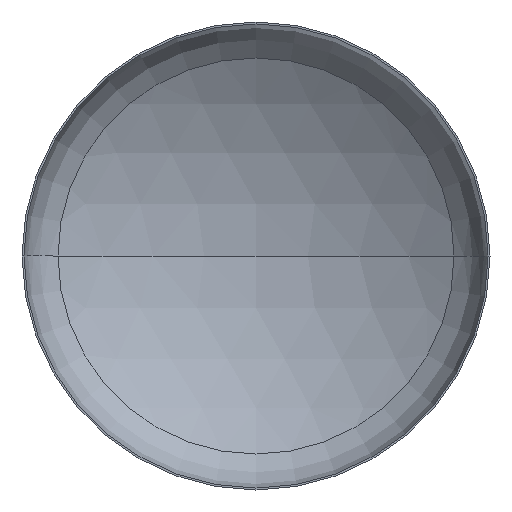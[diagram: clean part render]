
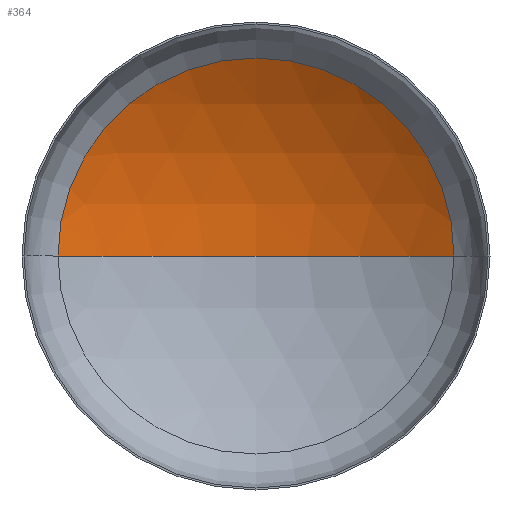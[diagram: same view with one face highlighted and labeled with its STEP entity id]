
A CAD part, front view. The second image highlights one B-rep face of the part: STEP entity #364.
In plain terms, the highlighted spherical face has radius 5600 mm.
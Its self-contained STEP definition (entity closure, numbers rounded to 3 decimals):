
#19 = ORIENTED_EDGE ( 'NONE', *, *, #172, .F. ) ;
#23 = DIRECTION ( 'NONE',  ( -1., 0., 0. ) ) ;
#32 = DIRECTION ( 'NONE',  ( 0., 0., -1. ) ) ;
#36 = VERTEX_POINT ( 'NONE', #277 ) ;
#63 = CARTESIAN_POINT ( 'NONE',  ( 0., 1854.179, 0. ) ) ;
#87 = EDGE_LOOP ( 'NONE', ( #19, #100, #89 ) ) ;
#89 = ORIENTED_EDGE ( 'NONE', *, *, #167, .T. ) ;
#100 = ORIENTED_EDGE ( 'NONE', *, *, #168, .T. ) ;
#107 = CIRCLE ( 'NONE', #123, 2962.301 ) ;
#108 = VERTEX_POINT ( 'NONE', #232 ) ;
#111 = AXIS2_PLACEMENT_3D ( 'NONE', #322, #154, #191 ) ;
#112 = AXIS2_PLACEMENT_3D ( 'NONE', #220, #32, #23 ) ;
#123 = AXIS2_PLACEMENT_3D ( 'NONE', #264, #405, #403 ) ;
#139 = FACE_OUTER_BOUND ( 'NONE', #87, .T. ) ;
#154 = DIRECTION ( 'NONE',  ( 0., 0., 1. ) ) ;
#167 = EDGE_CURVE ( 'NONE', #108, #36, #107, .T. ) ;
#168 = EDGE_CURVE ( 'NONE', #211, #108, #169, .T. ) ;
#169 = CIRCLE ( 'NONE', #112, 5600. ) ;
#172 = EDGE_CURVE ( 'NONE', #211, #36, #379, .T. ) ;
#191 = DIRECTION ( 'NONE',  ( 1., 0., 0. ) ) ;
#211 = VERTEX_POINT ( 'NONE', #63 ) ;
#220 = CARTESIAN_POINT ( 'NONE',  ( 0., -3745.821, 0. ) ) ;
#232 = CARTESIAN_POINT ( 'NONE',  ( 2962.301, 1006.523, 0. ) ) ;
#250 = DIRECTION ( 'NONE',  ( 0., 0., -1. ) ) ;
#254 = DIRECTION ( 'NONE',  ( -1., 0., 0. ) ) ;
#263 = CARTESIAN_POINT ( 'NONE',  ( 0., -3745.821, 0. ) ) ;
#264 = CARTESIAN_POINT ( 'NONE',  ( 0., 1006.523, 0. ) ) ;
#277 = CARTESIAN_POINT ( 'NONE',  ( -2962.301, 1006.523, 0. ) ) ;
#322 = CARTESIAN_POINT ( 'NONE',  ( 0., -3745.821, 0. ) ) ;
#336 = SPHERICAL_SURFACE ( 'NONE', #357, 5600. ) ;
#357 = AXIS2_PLACEMENT_3D ( 'NONE', #263, #250, #254 ) ;
#364 = ADVANCED_FACE ( 'NONE', ( #139 ), #336, .F. ) ;
#379 = CIRCLE ( 'NONE', #111, 5600. ) ;
#403 = DIRECTION ( 'NONE',  ( 1., 0., 0. ) ) ;
#405 = DIRECTION ( 'NONE',  ( 0., -1., 0. ) ) ;
